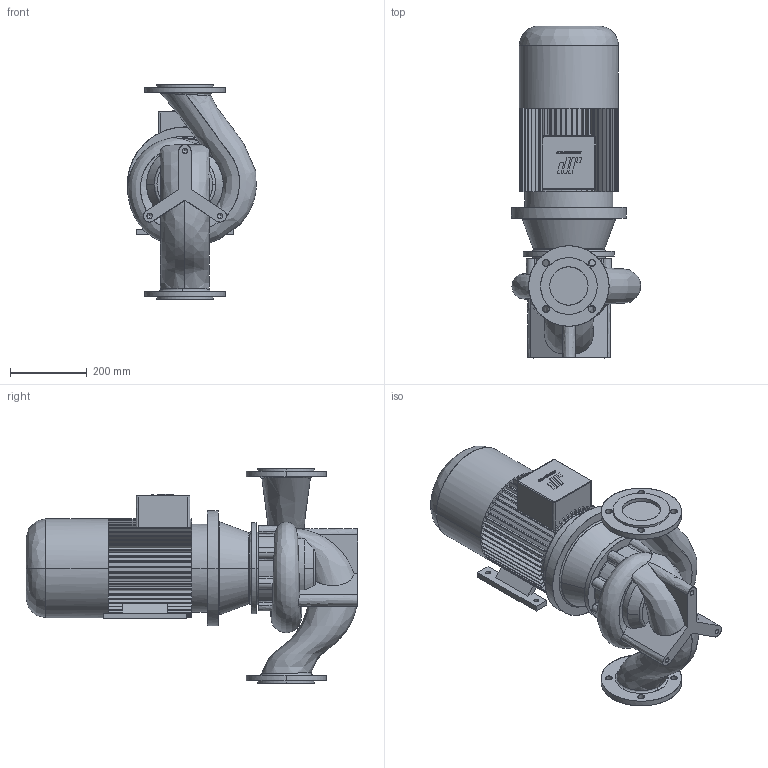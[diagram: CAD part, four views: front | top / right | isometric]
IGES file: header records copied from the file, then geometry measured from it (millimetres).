
Start section: CombiLine
Global section: file name: CLB_100-160_IEC132M.igs; native system:  By UGS Corp.; preprocessor: XPlus GENERIC/IGES 3.0; author: Stageplaats; organization: Johnson Pump Water B.V.; date: 20070716.084921; units: millimetre
Bounding box: 337.13 x 867 x 560 mm (x, y, z)
Surface area: 1569619.9 mm2 (no closed solid volume)
Topology: 0 solids, 0 shells, 583 faces, 3545 edges, 3539 vertices
Faces by surface type: bspline 583
